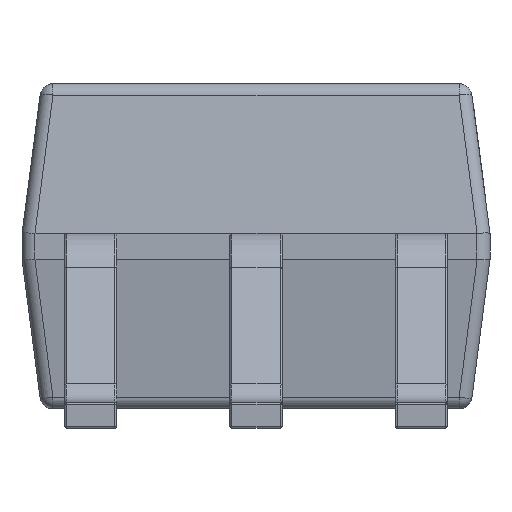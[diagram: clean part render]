
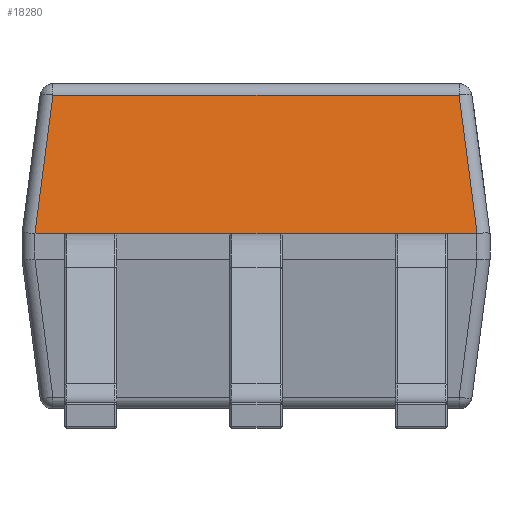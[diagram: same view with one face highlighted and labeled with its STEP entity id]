
A CAD part, left-side view. The second image highlights one B-rep face of the part: STEP entity #18280.
In plain terms, the highlighted planar face has unit normal (-0.992, 0, 0.129).
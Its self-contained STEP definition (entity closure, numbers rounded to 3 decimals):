
#636 = CARTESIAN_POINT ( 'NONE',  ( -2.024, -1.525, 2.796 ) ) ;
#944 = VECTOR ( 'NONE', #12460, 1000. ) ;
#974 = CARTESIAN_POINT ( 'NONE',  ( -2.2, -1.701, 1.45 ) ) ;
#2997 = CARTESIAN_POINT ( 'NONE',  ( -2.2, 1.701, 1.45 ) ) ;
#4148 = DIRECTION ( 'NONE',  ( 0., 1., 0. ) ) ;
#7444 = LINE ( 'NONE', #7588, #9879 ) ;
#7529 = CARTESIAN_POINT ( 'NONE',  ( -2.061, 1.562, 2.513 ) ) ;
#7588 = CARTESIAN_POINT ( 'NONE',  ( -2.024, 1.525, 2.796 ) ) ;
#7589 =( BOUNDED_CURVE ( )  B_SPLINE_CURVE ( 3, ( #25162, #8309, #974, #30231 ),
 .UNSPECIFIED., .F., .F. ) 
 B_SPLINE_CURVE_WITH_KNOTS ( ( 4, 4 ),
 ( 0., 0.008 ),
 .UNSPECIFIED. ) 
 CURVE ( )  GEOMETRIC_REPRESENTATION_ITEM ( )  RATIONAL_B_SPLINE_CURVE ( ( 1., 1., 1., 1. ) ) 
 REPRESENTATION_ITEM ( '' )  );
#7739 = LINE ( 'NONE', #12575, #19917 ) ;
#7962 = ORIENTED_EDGE ( 'NONE', *, *, #9321, .T. ) ;
#8309 = CARTESIAN_POINT ( 'NONE',  ( -2.2, -1.7, 1.45 ) ) ;
#8659 = DIRECTION ( 'NONE',  ( -0.992, 0., 0.129 ) ) ;
#9321 = EDGE_CURVE ( 'NONE', #10461, #30771, #7444, .T. ) ;
#9555 = EDGE_CURVE ( 'NONE', #13150, #19998, #7589, .T. ) ;
#9879 = VECTOR ( 'NONE', #29642, 1000. ) ;
#9923 = EDGE_LOOP ( 'NONE', ( #7962, #25319, #28906, #18459, #25752, #15079 ) ) ;
#10037 = AXIS2_PLACEMENT_3D ( 'NONE', #18806, #8659, #4148 ) ;
#10041 = CARTESIAN_POINT ( 'NONE',  ( -2.2, 1.7, 1.45 ) ) ;
#10461 = VERTEX_POINT ( 'NONE', #7529 ) ;
#10826 = EDGE_CURVE ( 'NONE', #30771, #27420, #30313, .T. ) ;
#12460 = DIRECTION ( 'NONE',  ( 0., 1., 0. ) ) ;
#12575 = CARTESIAN_POINT ( 'NONE',  ( -2.2, 1.8, 1.45 ) ) ;
#12662 = LINE ( 'NONE', #636, #21062 ) ;
#13136 = DIRECTION ( 'NONE',  ( 0.128, 0.128, 0.983 ) ) ;
#13150 = VERTEX_POINT ( 'NONE', #29412 ) ;
#15079 = ORIENTED_EDGE ( 'NONE', *, *, #22211, .T. ) ;
#15259 = DIRECTION ( 'NONE',  ( 0., 1., 0. ) ) ;
#16798 = CARTESIAN_POINT ( 'NONE',  ( -2.2, -1.701, 1.45 ) ) ;
#17691 = LINE ( 'NONE', #19750, #944 ) ;
#18101 = CARTESIAN_POINT ( 'NONE',  ( -2.2, 1.701, 1.45 ) ) ;
#18280 = ADVANCED_FACE ( 'NONE', ( #25958 ), #30416, .T. ) ;
#18459 = ORIENTED_EDGE ( 'NONE', *, *, #9555, .T. ) ;
#18806 = CARTESIAN_POINT ( 'NONE',  ( -2.05, 0., 2.6 ) ) ;
#19727 = CARTESIAN_POINT ( 'NONE',  ( -2.2, 1.701, 1.45 ) ) ;
#19750 = CARTESIAN_POINT ( 'NONE',  ( -2.061, 0., 2.513 ) ) ;
#19917 = VECTOR ( 'NONE', #15259, 1000. ) ;
#19998 = VERTEX_POINT ( 'NONE', #16798 ) ;
#20099 = VERTEX_POINT ( 'NONE', #25320 ) ;
#21062 = VECTOR ( 'NONE', #13136, 1000. ) ;
#22211 = EDGE_CURVE ( 'NONE', #20099, #10461, #17691, .T. ) ;
#23414 = CARTESIAN_POINT ( 'NONE',  ( -2.2, 1.7, 1.45 ) ) ;
#23792 = EDGE_CURVE ( 'NONE', #13150, #27420, #7739, .T. ) ;
#25162 = CARTESIAN_POINT ( 'NONE',  ( -2.2, -1.7, 1.45 ) ) ;
#25319 = ORIENTED_EDGE ( 'NONE', *, *, #10826, .T. ) ;
#25320 = CARTESIAN_POINT ( 'NONE',  ( -2.061, -1.562, 2.513 ) ) ;
#25752 = ORIENTED_EDGE ( 'NONE', *, *, #27512, .T. ) ;
#25958 = FACE_OUTER_BOUND ( 'NONE', #9923, .T. ) ;
#27148 = CARTESIAN_POINT ( 'NONE',  ( -2.2, 1.7, 1.45 ) ) ;
#27420 = VERTEX_POINT ( 'NONE', #23414 ) ;
#27512 = EDGE_CURVE ( 'NONE', #19998, #20099, #12662, .T. ) ;
#28906 = ORIENTED_EDGE ( 'NONE', *, *, #23792, .F. ) ;
#29412 = CARTESIAN_POINT ( 'NONE',  ( -2.2, -1.7, 1.45 ) ) ;
#29642 = DIRECTION ( 'NONE',  ( -0.128, 0.128, -0.983 ) ) ;
#30231 = CARTESIAN_POINT ( 'NONE',  ( -2.2, -1.701, 1.45 ) ) ;
#30313 =( BOUNDED_CURVE ( )  B_SPLINE_CURVE ( 3, ( #2997, #19727, #10041, #27148 ),
 .UNSPECIFIED., .F., .F. ) 
 B_SPLINE_CURVE_WITH_KNOTS ( ( 4, 4 ),
 ( 6.275, 6.283 ),
 .UNSPECIFIED. ) 
 CURVE ( )  GEOMETRIC_REPRESENTATION_ITEM ( )  RATIONAL_B_SPLINE_CURVE ( ( 1., 1., 1., 1. ) ) 
 REPRESENTATION_ITEM ( '' )  );
#30416 = PLANE ( 'NONE',  #10037 ) ;
#30771 = VERTEX_POINT ( 'NONE', #18101 ) ;
